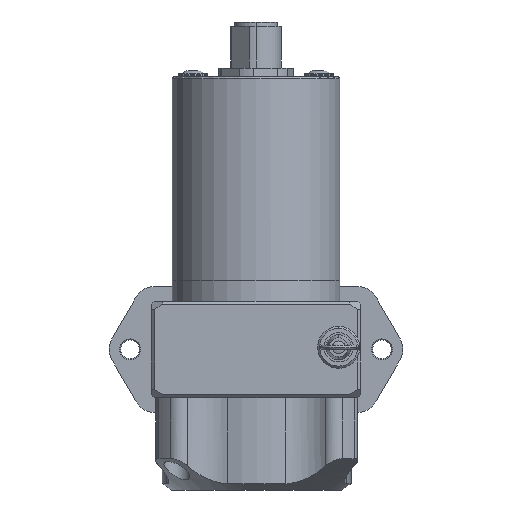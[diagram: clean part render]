
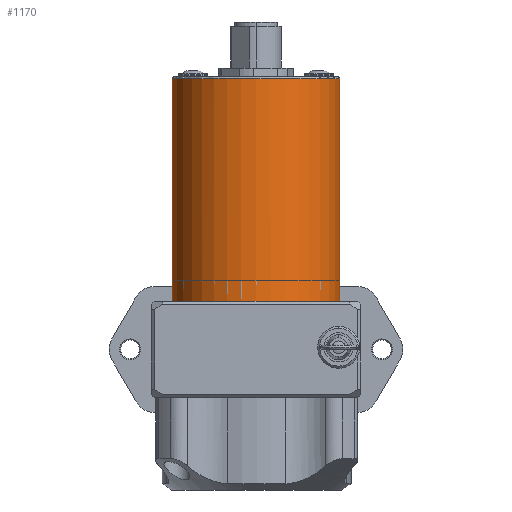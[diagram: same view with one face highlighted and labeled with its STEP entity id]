
A CAD part, front view. The second image highlights one B-rep face of the part: STEP entity #1170.
In plain terms, the highlighted cylindrical face has radius 20 mm (diameter 40 mm), a partial arc.
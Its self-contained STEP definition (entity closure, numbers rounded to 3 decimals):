
#1048 = EDGE_CURVE ( 'NONE', #1065, #1049, #7711, .T. ) ;
#1049 = VERTEX_POINT ( 'NONE', #7707 ) ;
#1062 = VERTEX_POINT ( 'NONE', #7755 ) ;
#1064 = EDGE_CURVE ( 'NONE', #1065, #1062, #7754, .T. ) ;
#1065 = VERTEX_POINT ( 'NONE', #7749 ) ;
#1106 = VERTEX_POINT ( 'NONE', #8003 ) ;
#1108 = EDGE_CURVE ( 'NONE', #1127, #1106, #8001, .T. ) ;
#1127 = VERTEX_POINT ( 'NONE', #8234 ) ;
#1147 = ORIENTED_EDGE ( 'NONE', *, *, #1064, .T. ) ;
#1148 = ORIENTED_EDGE ( 'NONE', *, *, #1169, .T. ) ;
#1149 = ORIENTED_EDGE ( 'NONE', *, *, #1108, .T. ) ;
#1150 = ORIENTED_EDGE ( 'NONE', *, *, #1151, .T. ) ;
#1151 = EDGE_CURVE ( 'NONE', #1106, #1049, #8268, .T. ) ;
#1169 = EDGE_CURVE ( 'NONE', #1062, #1127, #8340, .T. ) ;
#1170 = ADVANCED_FACE ( 'NONE', ( #8332 ), #8366, .T. ) ;
#1171 = EDGE_LOOP ( 'NONE', ( #1172, #1147, #1148, #1149, #1150 ) ) ;
#1172 = ORIENTED_EDGE ( 'NONE', *, *, #1048, .F. ) ;
#7707 = CARTESIAN_POINT ( 'NONE',  ( 20., 0., 23. ) ) ;
#7708 = DIRECTION ( 'NONE',  ( 0., 0., -1. ) ) ;
#7709 = VECTOR ( 'NONE', #7708, 1000. ) ;
#7710 = CARTESIAN_POINT ( 'NONE',  ( 20., 0., 28. ) ) ;
#7711 = LINE ( 'NONE', #7710, #7709 ) ;
#7749 = CARTESIAN_POINT ( 'NONE',  ( 20., 0., 76. ) ) ;
#7750 = DIRECTION ( 'NONE',  ( -1., 0., 0. ) ) ;
#7751 = DIRECTION ( 'NONE',  ( 0., 0., -1. ) ) ;
#7752 = CARTESIAN_POINT ( 'NONE',  ( 0., 0., 76. ) ) ;
#7753 = AXIS2_PLACEMENT_3D ( 'NONE', #7752, #7751, #7750 ) ;
#7754 = CIRCLE ( 'NONE', #7753, 20. ) ;
#7755 = CARTESIAN_POINT ( 'NONE',  ( 20., -0.092, 76. ) ) ;
#7998 = DIRECTION ( 'NONE',  ( 0., 0., -1. ) ) ;
#7999 = VECTOR ( 'NONE', #7998, 1000. ) ;
#8000 = CARTESIAN_POINT ( 'NONE',  ( -20., 0., 28. ) ) ;
#8001 = LINE ( 'NONE', #8000, #7999 ) ;
#8003 = CARTESIAN_POINT ( 'NONE',  ( -20., 0., 23. ) ) ;
#8234 = CARTESIAN_POINT ( 'NONE',  ( -20., 0., 76. ) ) ;
#8264 = DIRECTION ( 'NONE',  ( -1., 0., 0. ) ) ;
#8265 = DIRECTION ( 'NONE',  ( 0., 0., 1. ) ) ;
#8266 = CARTESIAN_POINT ( 'NONE',  ( 0., 0., 23. ) ) ;
#8267 = AXIS2_PLACEMENT_3D ( 'NONE', #8266, #8265, #8264 ) ;
#8268 = CIRCLE ( 'NONE', #8267, 20. ) ;
#8332 = FACE_OUTER_BOUND ( 'NONE', #1171, .T. ) ;
#8333 = DIRECTION ( 'NONE',  ( -1., 0., 0. ) ) ;
#8334 = DIRECTION ( 'NONE',  ( 0., 0., -1. ) ) ;
#8335 = CARTESIAN_POINT ( 'NONE',  ( 0., 0., 76. ) ) ;
#8336 = AXIS2_PLACEMENT_3D ( 'NONE', #8335, #8334, #8333 ) ;
#8340 = CIRCLE ( 'NONE', #8336, 20. ) ;
#8361 = DIRECTION ( 'NONE',  ( -1., 0., 0. ) ) ;
#8362 = DIRECTION ( 'NONE',  ( 0., 0., -1. ) ) ;
#8363 = CARTESIAN_POINT ( 'NONE',  ( 0., 0., 28. ) ) ;
#8364 = AXIS2_PLACEMENT_3D ( 'NONE', #8363, #8362, #8361 ) ;
#8366 = CYLINDRICAL_SURFACE ( 'NONE', #8364, 20. ) ;
